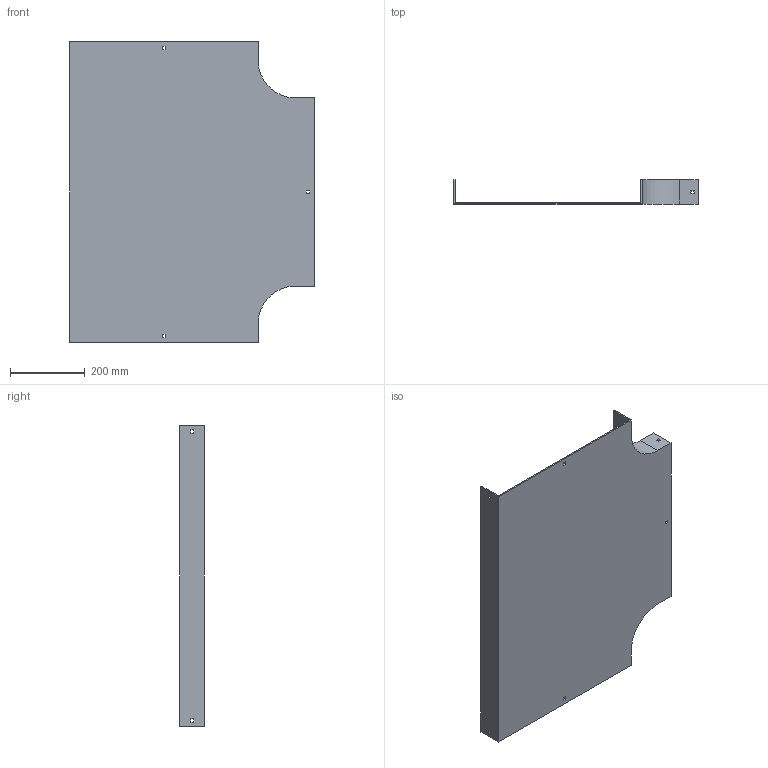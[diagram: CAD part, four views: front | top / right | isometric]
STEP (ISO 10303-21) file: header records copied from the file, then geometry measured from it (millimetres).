
FILE_DESCRIPTION (( 'STEP AP214' ), '1' );
FILE_NAME ('15B1H500.step', '2025-02-21T09:54:58', ( '' ), ( '' ), 'SwSTEP 2.0', 'SolidWorks 2023', '' );
FILE_SCHEMA (( 'AUTOMOTIVE_DESIGN' ));
Length unit declared in the file: millimetre
Products named in the file (1): 15B1H500
Bounding box: 654 x 65.5 x 804 mm (x, y, z)
Volume: 1983027.5 mm3; surface area: 1145405.6 mm2
Topology: 1 solids, 1 shells, 58 faces, 168 edges, 112 vertices
Faces by surface type: plane 54, cylinder 4
Entity records: 1939 total; most frequent: CARTESIAN_POINT 339, ORIENTED_EDGE 336, DIRECTION 294, EDGE_CURVE 168, VECTOR 160, LINE 160, VERTEX_POINT 112, EDGE_LOOP 76
